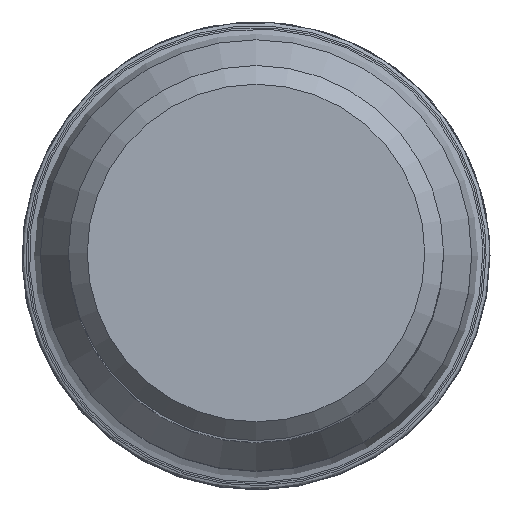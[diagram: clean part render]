
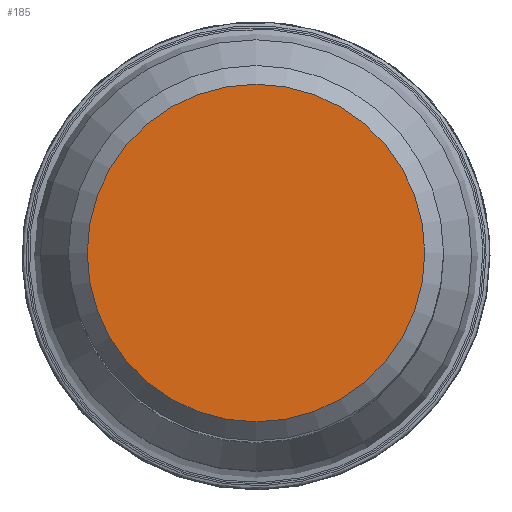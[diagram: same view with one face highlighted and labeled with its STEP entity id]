
A CAD part, top view. The second image highlights one B-rep face of the part: STEP entity #185.
In plain terms, the highlighted planar face has unit normal (0, 0, 1).
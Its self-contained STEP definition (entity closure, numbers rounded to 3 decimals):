
#155=FACE_OUTER_BOUND('',#334,.T.);
#167=PLANE('',#691);
#185=ADVANCED_FACE('',(#155),#167,.T.);
#334=EDGE_LOOP('',(#426));
#426=ORIENTED_EDGE('',*,*,#553,.F.);
#507=VERTEX_POINT('',#952);
#553=EDGE_CURVE('',#507,#507,#599,.T.);
#599=CIRCLE('',#690,9.);
#690=AXIS2_PLACEMENT_3D('',#951,#789,#790);
#691=AXIS2_PLACEMENT_3D('',#953,#791,#792);
#789=DIRECTION('',(0.,0.,-1.));
#790=DIRECTION('',(-1.,0.,0.));
#791=DIRECTION('',(0.,0.,1.));
#792=DIRECTION('',(-1.,0.,0.));
#951=CARTESIAN_POINT('',(0.,0.,50.));
#952=CARTESIAN_POINT('',(-9.,0.,50.));
#953=CARTESIAN_POINT('',(1.563,-8.863,50.));
